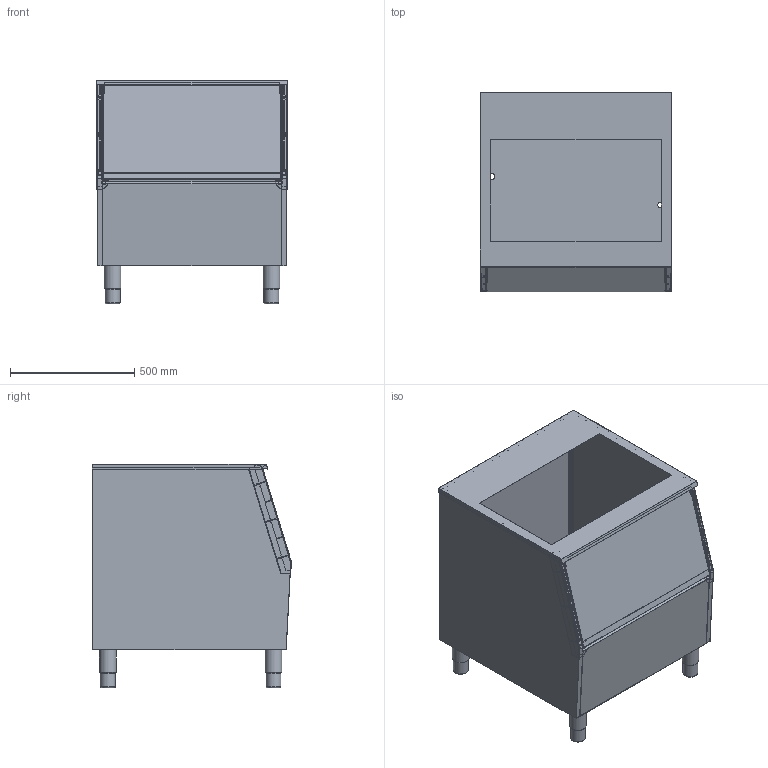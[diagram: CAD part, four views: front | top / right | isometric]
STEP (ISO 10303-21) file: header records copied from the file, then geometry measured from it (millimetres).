
FILE_DESCRIPTION(/* description */ ('Unknown'),/* implementation_level */ '2;1');
FILE_NAME(/* name */ 'CAD-108',/* time_stamp */ '2020-10-19T10:47:47+02:00',/* author */ ('Unknown'),/* organization */ ('Unknown'),/* preprocessor_version */ 'ST-DEVELOPER v16.7',/* originating_system */ 'Solid Edge',/* authorisation */ 'Unknown');
FILE_SCHEMA (('CONFIG_CONTROL_DESIGN'));
Products named in the file (14): S300; 42-9+6748-R01_oa_0; 42-7+6736-R01; 42-6+6644; 42-12+32513_R00; 42-6+6643; 42-21; 42-243+32518_oa_1; 42-5+6825A_oa_2; 42-5+6734A; 42-245+32509; 42-246+32510; 42-247+32511; 42-244+32508
Assembly tree (16 placements, depth 4):
  S300
    42-9+6748-R01_oa_0
      42-7+6736-R01
    42-6+6644
    42-12+32513_R00
    42-6+6643
    42-21  x4
    42-243+32518_oa_1
      42-5+6825A_oa_2
        42-5+6734A
      42-245+32509
      42-246+32510
      42-247+32511
      42-244+32508
Bounding box: 771.4 x 802.42 x 900.3 mm (x, y, z)
Volume: 5234773.2 mm3; surface area: 7819028.1 mm2
Topology: 17 solids, 17 shells, 1892 faces, 4992 edges, 3042 vertices
Faces by surface type: plane 914, cylinder 685, bspline 199, sphere 78, cone 12, torus 4
Full cylindrical faces by diameter (mm): 4 x8, 4.25 x17, 5 x8, 10 x4, 21 x4, 22 x2, 60 x5, 67 x4
Entity records: 60041 total; most frequent: CARTESIAN_POINT 14635, ORIENTED_EDGE 9540, DIRECTION 9241, EDGE_CURVE 4770, AXIS2_PLACEMENT_3D 3091, LINE 3059, VECTOR 3059, VERTEX_POINT 2973
